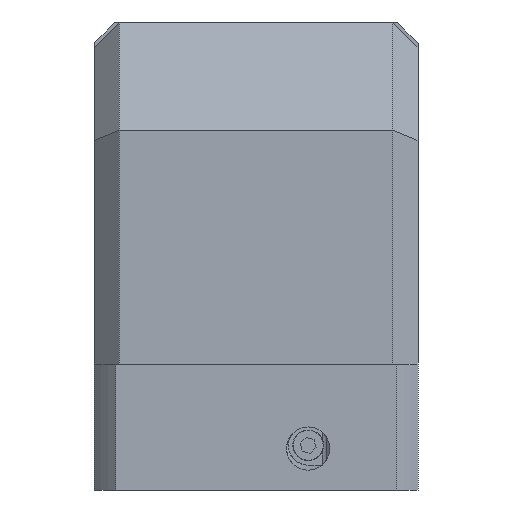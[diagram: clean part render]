
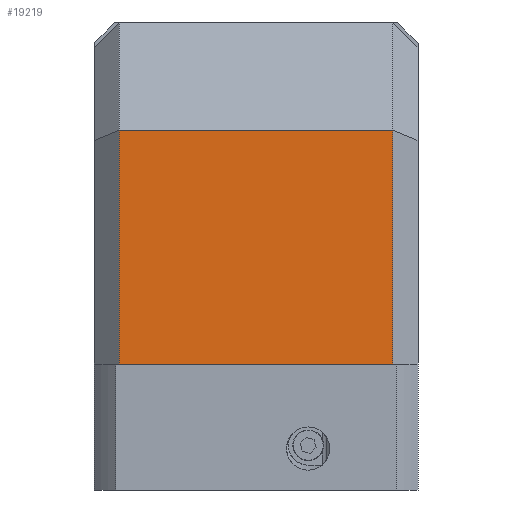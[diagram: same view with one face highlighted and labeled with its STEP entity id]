
A CAD part, front view. The second image highlights one B-rep face of the part: STEP entity #19219.
In plain terms, the highlighted planar face has unit normal (0, -1, 0).
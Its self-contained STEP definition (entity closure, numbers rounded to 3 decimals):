
#1460 = DIRECTION ( 'NONE',  ( -1., 0., 0. ) ) ;
#1566 = CARTESIAN_POINT ( 'NONE',  ( 45., -45., 45. ) ) ;
#1668 = LINE ( 'NONE', #11790, #19291 ) ;
#2506 = VERTEX_POINT ( 'NONE', #9866 ) ;
#3354 = DIRECTION ( 'NONE',  ( 1., 0., 0. ) ) ;
#3669 = DIRECTION ( 'NONE',  ( 0., 0., 1. ) ) ;
#4491 = EDGE_CURVE ( 'NONE', #2506, #5717, #17086, .T. ) ;
#4746 = ORIENTED_EDGE ( 'NONE', *, *, #21929, .T. ) ;
#5349 = AXIS2_PLACEMENT_3D ( 'NONE', #1566, #13657, #3354 ) ;
#5717 = VERTEX_POINT ( 'NONE', #16830 ) ;
#5874 = VECTOR ( 'NONE', #16489, 1000. ) ;
#6091 = FACE_OUTER_BOUND ( 'NONE', #10480, .T. ) ;
#6881 = CARTESIAN_POINT ( 'NONE',  ( 38., -45., -50. ) ) ;
#8162 = CARTESIAN_POINT ( 'NONE',  ( 38., -45., 15. ) ) ;
#9254 = EDGE_CURVE ( 'NONE', #14323, #5717, #10406, .T. ) ;
#9866 = CARTESIAN_POINT ( 'NONE',  ( -38., -45., 15. ) ) ;
#9893 = VECTOR ( 'NONE', #3669, 1000. ) ;
#10196 = PLANE ( 'NONE',  #5349 ) ;
#10406 = LINE ( 'NONE', #14788, #5874 ) ;
#10480 = EDGE_LOOP ( 'NONE', ( #4746, #13231, #15092, #14389 ) ) ;
#11790 = CARTESIAN_POINT ( 'NONE',  ( 45., -45., 15. ) ) ;
#12600 = VECTOR ( 'NONE', #16803, 1000. ) ;
#13231 = ORIENTED_EDGE ( 'NONE', *, *, #4491, .T. ) ;
#13657 = DIRECTION ( 'NONE',  ( 0., 1., 0. ) ) ;
#13961 = CARTESIAN_POINT ( 'NONE',  ( 38., -45., 15. ) ) ;
#14323 = VERTEX_POINT ( 'NONE', #6881 ) ;
#14389 = ORIENTED_EDGE ( 'NONE', *, *, #16924, .T. ) ;
#14464 = LINE ( 'NONE', #13961, #9893 ) ;
#14788 = CARTESIAN_POINT ( 'NONE',  ( 45., -45., -50. ) ) ;
#15092 = ORIENTED_EDGE ( 'NONE', *, *, #9254, .F. ) ;
#16489 = DIRECTION ( 'NONE',  ( -1., 0., 0. ) ) ;
#16803 = DIRECTION ( 'NONE',  ( 0., 0., -1. ) ) ;
#16830 = CARTESIAN_POINT ( 'NONE',  ( -38., -45., -50. ) ) ;
#16924 = EDGE_CURVE ( 'NONE', #14323, #19626, #14464, .T. ) ;
#17086 = LINE ( 'NONE', #21749, #12600 ) ;
#19219 = ADVANCED_FACE ( 'NONE', ( #6091 ), #10196, .F. ) ;
#19291 = VECTOR ( 'NONE', #1460, 1000. ) ;
#19626 = VERTEX_POINT ( 'NONE', #8162 ) ;
#21749 = CARTESIAN_POINT ( 'NONE',  ( -38., -45., 45. ) ) ;
#21929 = EDGE_CURVE ( 'NONE', #19626, #2506, #1668, .T. ) ;
